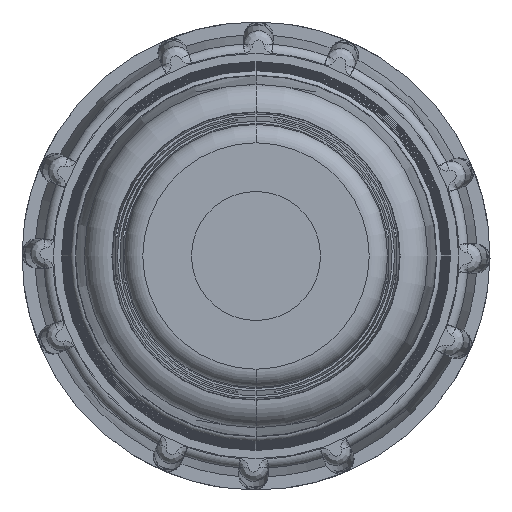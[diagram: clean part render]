
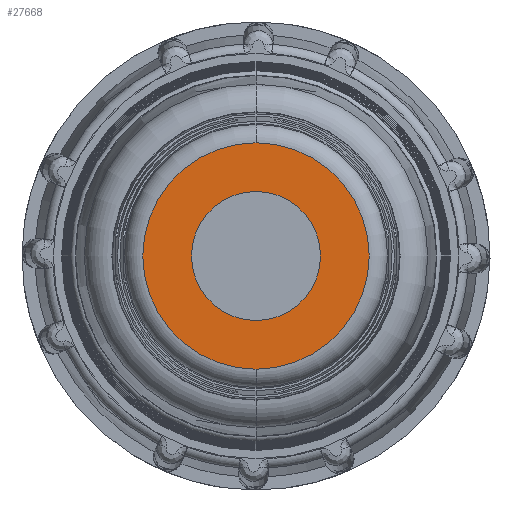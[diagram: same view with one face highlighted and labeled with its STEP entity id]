
A CAD part, front view. The second image highlights one B-rep face of the part: STEP entity #27668.
In plain terms, the highlighted planar face has unit normal (0, -1, 0).
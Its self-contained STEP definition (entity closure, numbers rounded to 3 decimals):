
#8355=CARTESIAN_POINT('',(0.,-37.,0.));
#8356=DIRECTION('',(0.,-1.,0.));
#8357=DIRECTION('',(0.,0.,-1.));
#8358=AXIS2_PLACEMENT_3D('',#8355,#8356,#8357);
#8360=CARTESIAN_POINT('',(0.,-37.,0.));
#8361=DIRECTION('',(0.,-1.,0.));
#8362=DIRECTION('',(0.,0.,1.));
#8363=AXIS2_PLACEMENT_3D('',#8360,#8361,#8362);
#8365=CARTESIAN_POINT('',(0.,-37.,0.));
#8366=DIRECTION('',(0.,-1.,0.));
#8367=DIRECTION('',(-1.,0.,0.));
#8368=AXIS2_PLACEMENT_3D('',#8365,#8366,#8367);
#8370=CARTESIAN_POINT('',(0.,-37.,0.));
#8371=DIRECTION('',(0.,-1.,0.));
#8372=DIRECTION('',(1.,0.,0.));
#8373=AXIS2_PLACEMENT_3D('',#8370,#8371,#8372);
#13980=CARTESIAN_POINT('',(0.,-37.,-6.144));
#13981=CARTESIAN_POINT('',(0.,-37.,6.144));
#13982=VERTEX_POINT('',#13980);
#13983=VERTEX_POINT('',#13981);
#14990=CARTESIAN_POINT('',(-3.5,-37.,0.));
#14991=CARTESIAN_POINT('',(3.5,-37.,0.));
#14992=VERTEX_POINT('',#14990);
#14993=VERTEX_POINT('',#14991);
#27652=CARTESIAN_POINT('',(0.,-37.,0.));
#27653=DIRECTION('',(0.,-1.,0.));
#27654=DIRECTION('',(0.,0.,1.));
#27655=AXIS2_PLACEMENT_3D('',#27652,#27653,#27654);
#27656=PLANE('',#27655);
#27658=ORIENTED_EDGE('',*,*,#27657,.F.);
#27659=ORIENTED_EDGE('',*,*,#27635,.F.);
#27660=EDGE_LOOP('',(#27658,#27659));
#27661=FACE_OUTER_BOUND('',#27660,.F.);
#27663=ORIENTED_EDGE('',*,*,#27662,.T.);
#27665=ORIENTED_EDGE('',*,*,#27664,.T.);
#27666=EDGE_LOOP('',(#27663,#27665));
#27667=FACE_BOUND('',#27666,.F.);
#27668=ADVANCED_FACE('',(#27661,#27667),#27656,.T.);
#8359=CIRCLE('',#8358,6.144);
#8364=CIRCLE('',#8363,6.144);
#8369=CIRCLE('',#8368,3.5);
#8374=CIRCLE('',#8373,3.5);
#27635=EDGE_CURVE('',#13983,#13982,#8364,.T.);
#27657=EDGE_CURVE('',#13982,#13983,#8359,.T.);
#27662=EDGE_CURVE('',#14992,#14993,#8369,.T.);
#27664=EDGE_CURVE('',#14993,#14992,#8374,.T.);
